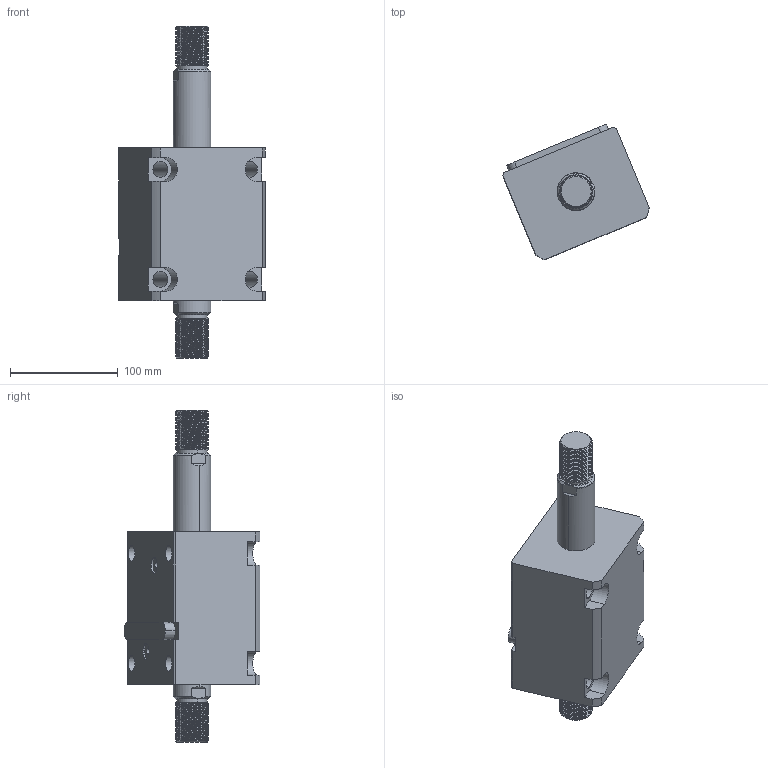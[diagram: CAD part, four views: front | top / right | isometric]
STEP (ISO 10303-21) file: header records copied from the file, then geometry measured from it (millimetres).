
FILE_DESCRIPTION (( 'STEP AP214' ), '1' );
FILE_NAME ('chtb-lwm63x60w_asm.STEP', '2018-05-22T01:32:39', ( 'Windows' ), ( 'Microsoft' ), 'SwSTEP 2.0', 'SolidWorks 2015', '' );
FILE_SCHEMA (( 'AUTOMOTIVE_DESIGN' ));
Length unit declared in the file: millimetre
Products named in the file (5): CHTB-LA63PJ; CHTB-SW63X60WHSG; CHTB-LWM63X60NBT; CHTB-63QG; chtb-lwm63x60w_asm
Assembly tree (4 placements, depth 2):
  chtb-lwm63x60w_asm
    CHTB-63QG
    CHTB-LWM63X60NBT
    CHTB-SW63X60WHSG
    CHTB-LA63PJ
Bounding box: 135.77 x 126.06 x 308 mm (x, y, z)
Volume: 1369789 mm3; surface area: 188397.7 mm2
Topology: 4 solids, 4 shells, 298 faces, 869 edges, 587 vertices
Faces by surface type: cylinder 203, plane 55, bspline 16, cone 12, torus 12
Entity records: 27660 total; most frequent: CARTESIAN_POINT 20506, ORIENTED_EDGE 1730, DIRECTION 1186, EDGE_CURVE 865, VERTEX_POINT 587, AXIS2_PLACEMENT_3D 440, EDGE_LOOP 326, VECTOR 306
